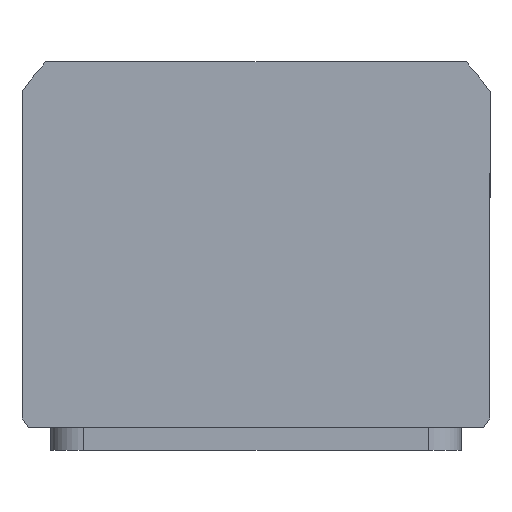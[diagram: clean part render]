
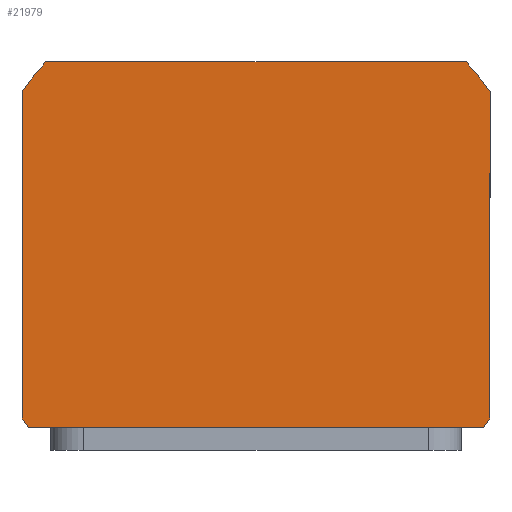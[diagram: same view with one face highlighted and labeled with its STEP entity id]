
A CAD part, top view. The second image highlights one B-rep face of the part: STEP entity #21979.
In plain terms, the highlighted planar face has unit normal (0, 0, 1) as drawn and (0, 0, -1) by its records, which use the part's own axes.
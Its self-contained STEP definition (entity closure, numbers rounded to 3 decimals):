
#798 = EDGE_CURVE ( 'NONE', #22410, #10676, #20459, .T. ) ;
#1031 = DIRECTION ( 'NONE',  ( 0., 0., 1. ) ) ;
#1577 = CARTESIAN_POINT ( 'NONE',  ( -57., 44.5, 0. ) ) ;
#1786 = DIRECTION ( 'NONE',  ( 1., 0., 0. ) ) ;
#2444 = ORIENTED_EDGE ( 'NONE', *, *, #7605, .F. ) ;
#3059 = CARTESIAN_POINT ( 'NONE',  ( 0., 2.508, 0. ) ) ;
#3128 = ORIENTED_EDGE ( 'NONE', *, *, #798, .F. ) ;
#3372 = CARTESIAN_POINT ( 'NONE',  ( 0., 2.508, 0. ) ) ;
#3409 = DIRECTION ( 'NONE',  ( 0., 0., 1. ) ) ;
#3493 = CARTESIAN_POINT ( 'NONE',  ( 0., 2.508, 0. ) ) ;
#3974 = LINE ( 'NONE', #15910, #22240 ) ;
#3985 = ORIENTED_EDGE ( 'NONE', *, *, #14414, .F. ) ;
#4051 = CARTESIAN_POINT ( 'NONE',  ( 55.38, 44.5, 0. ) ) ;
#4132 = CIRCLE ( 'NONE', #12122, 69.5 ) ;
#4598 = LINE ( 'NONE', #22765, #22322 ) ;
#4851 = DIRECTION ( 'NONE',  ( 1., 0., 0. ) ) ;
#4928 = VERTEX_POINT ( 'NONE', #16543 ) ;
#5158 = DIRECTION ( 'NONE',  ( 1., 0., 0. ) ) ;
#6052 = DIRECTION ( 'NONE',  ( 0., 0., 1. ) ) ;
#6069 = ORIENTED_EDGE ( 'NONE', *, *, #16452, .F. ) ;
#6873 = EDGE_LOOP ( 'NONE', ( #6069, #10005, #3985, #17516, #2444, #22525, #3128, #11142 ) ) ;
#7158 = CARTESIAN_POINT ( 'NONE',  ( -57., -37.256, 0. ) ) ;
#7419 = VERTEX_POINT ( 'NONE', #4051 ) ;
#7605 = EDGE_CURVE ( 'NONE', #11551, #21096, #4132, .T. ) ;
#7624 = AXIS2_PLACEMENT_3D ( 'NONE', #16662, #6052, #18443 ) ;
#7753 = CARTESIAN_POINT ( 'NONE',  ( -57., 42.273, 0. ) ) ;
#8663 = AXIS2_PLACEMENT_3D ( 'NONE', #11598, #1031, #13389 ) ;
#8945 = DIRECTION ( 'NONE',  ( 1., 0., 0. ) ) ;
#9075 = DIRECTION ( 'NONE',  ( 0., 1., 0. ) ) ;
#9651 = CARTESIAN_POINT ( 'NONE',  ( -51.19, -44.5, 0. ) ) ;
#10005 = ORIENTED_EDGE ( 'NONE', *, *, #16270, .F. ) ;
#10676 = VERTEX_POINT ( 'NONE', #7753 ) ;
#11142 = ORIENTED_EDGE ( 'NONE', *, *, #11356, .F. ) ;
#11356 = EDGE_CURVE ( 'NONE', #7419, #22410, #15574, .T. ) ;
#11551 = VERTEX_POINT ( 'NONE', #7158 ) ;
#11568 = EDGE_CURVE ( 'NONE', #21096, #17701, #3974, .T. ) ;
#11598 = CARTESIAN_POINT ( 'NONE',  ( 0., 0., 0. ) ) ;
#12112 = DIRECTION ( 'NONE',  ( 0., -1., 0. ) ) ;
#12122 = AXIS2_PLACEMENT_3D ( 'NONE', #3372, #15755, #5158 ) ;
#12145 = DIRECTION ( 'NONE',  ( -1., 0., 0. ) ) ;
#12934 = VECTOR ( 'NONE', #9075, 1000. ) ;
#12954 = PLANE ( 'NONE',  #8663 ) ;
#13373 = CARTESIAN_POINT ( 'NONE',  ( 51.19, -44.5, 0. ) ) ;
#13389 = DIRECTION ( 'NONE',  ( 1., 0., 0. ) ) ;
#14275 = EDGE_CURVE ( 'NONE', #10676, #11551, #4598, .T. ) ;
#14414 = EDGE_CURVE ( 'NONE', #17701, #4928, #17053, .T. ) ;
#14501 = AXIS2_PLACEMENT_3D ( 'NONE', #3493, #3409, #1786 ) ;
#15411 = CIRCLE ( 'NONE', #22906, 69.5 ) ;
#15443 = DIRECTION ( 'NONE',  ( 0., 0., 1. ) ) ;
#15574 = LINE ( 'NONE', #1577, #19174 ) ;
#15755 = DIRECTION ( 'NONE',  ( 0., 0., 1. ) ) ;
#15910 = CARTESIAN_POINT ( 'NONE',  ( -57., -44.5, 0. ) ) ;
#16270 = EDGE_CURVE ( 'NONE', #4928, #18899, #22352, .T. ) ;
#16452 = EDGE_CURVE ( 'NONE', #18899, #7419, #15411, .T. ) ;
#16543 = CARTESIAN_POINT ( 'NONE',  ( 57., -37.256, 0. ) ) ;
#16662 = CARTESIAN_POINT ( 'NONE',  ( 0., 2.508, 0. ) ) ;
#17053 = CIRCLE ( 'NONE', #7624, 69.5 ) ;
#17516 = ORIENTED_EDGE ( 'NONE', *, *, #11568, .F. ) ;
#17701 = VERTEX_POINT ( 'NONE', #13373 ) ;
#18443 = DIRECTION ( 'NONE',  ( 1., 0., 0. ) ) ;
#18648 = CARTESIAN_POINT ( 'NONE',  ( -55.38, 44.5, 0. ) ) ;
#18899 = VERTEX_POINT ( 'NONE', #21818 ) ;
#19174 = VECTOR ( 'NONE', #12145, 1000. ) ;
#19683 = CARTESIAN_POINT ( 'NONE',  ( 57., 44.5, 0. ) ) ;
#20459 = CIRCLE ( 'NONE', #14501, 69.5 ) ;
#21096 = VERTEX_POINT ( 'NONE', #9651 ) ;
#21768 = FACE_OUTER_BOUND ( 'NONE', #6873, .T. ) ;
#21818 = CARTESIAN_POINT ( 'NONE',  ( 57., 42.273, 0. ) ) ;
#21979 = ADVANCED_FACE ( 'NONE', ( #21768 ), #12954, .F. ) ;
#22240 = VECTOR ( 'NONE', #8945, 1000. ) ;
#22322 = VECTOR ( 'NONE', #12112, 1000. ) ;
#22352 = LINE ( 'NONE', #19683, #12934 ) ;
#22410 = VERTEX_POINT ( 'NONE', #18648 ) ;
#22525 = ORIENTED_EDGE ( 'NONE', *, *, #14275, .F. ) ;
#22765 = CARTESIAN_POINT ( 'NONE',  ( -57., 44.5, 0. ) ) ;
#22906 = AXIS2_PLACEMENT_3D ( 'NONE', #3059, #15443, #4851 ) ;
